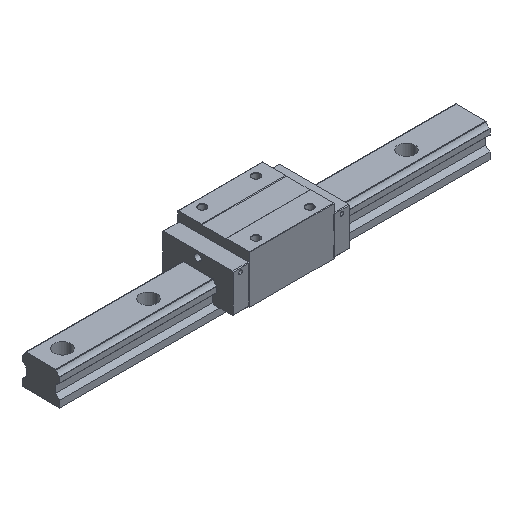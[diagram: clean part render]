
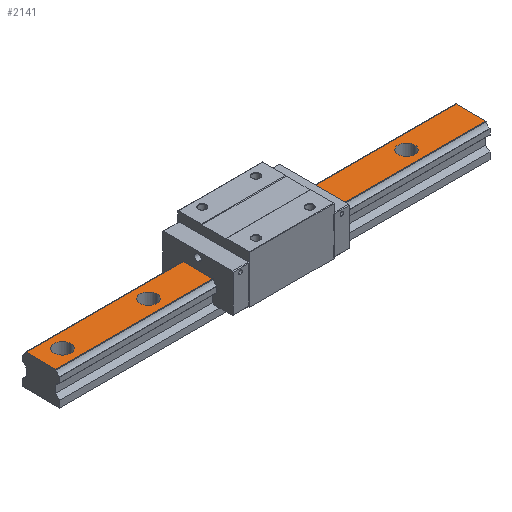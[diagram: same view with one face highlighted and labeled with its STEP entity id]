
A CAD part, isometric view. The second image highlights one B-rep face of the part: STEP entity #2141.
In plain terms, the highlighted planar face has unit normal (0, 0, 1).
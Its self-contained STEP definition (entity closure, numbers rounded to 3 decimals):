
#13 = CIRCLE ( 'NONE', #3112, 11.5 ) ;
#24 = ORIENTED_EDGE ( 'NONE', *, *, #5440, .F. ) ;
#25 = AXIS2_PLACEMENT_3D ( 'NONE', #1211, #313, #4169 ) ;
#39 = VERTEX_POINT ( 'NONE', #4799 ) ;
#69 = DIRECTION ( 'NONE',  ( -1., 0., 0. ) ) ;
#188 = AXIS2_PLACEMENT_3D ( 'NONE', #3413, #2598, #939 ) ;
#198 = VECTOR ( 'NONE', #69, 1000. ) ;
#234 = AXIS2_PLACEMENT_3D ( 'NONE', #2798, #4022, #3492 ) ;
#313 = DIRECTION ( 'NONE',  ( 0., 0., 1. ) ) ;
#327 = CARTESIAN_POINT ( 'NONE',  ( 198.5, 0., 44. ) ) ;
#356 = DIRECTION ( 'NONE',  ( 0., 0., 1. ) ) ;
#399 = CARTESIAN_POINT ( 'NONE',  ( 221.5, 0., 44. ) ) ;
#547 = AXIS2_PLACEMENT_3D ( 'NONE', #4229, #1384, #5115 ) ;
#550 = VERTEX_POINT ( 'NONE', #399 ) ;
#574 = VERTEX_POINT ( 'NONE', #3785 ) ;
#658 = CARTESIAN_POINT ( 'NONE',  ( -30., 0., 44. ) ) ;
#683 = LINE ( 'NONE', #4810, #1382 ) ;
#688 = EDGE_CURVE ( 'NONE', #4006, #4118, #4368, .T. ) ;
#698 = VERTEX_POINT ( 'NONE', #2671 ) ;
#699 = DIRECTION ( 'NONE',  ( 1., 0., 0. ) ) ;
#782 = DIRECTION ( 'NONE',  ( 0., 0., 1. ) ) ;
#828 = AXIS2_PLACEMENT_3D ( 'NONE', #4553, #782, #699 ) ;
#855 = VERTEX_POINT ( 'NONE', #4597 ) ;
#880 = LINE ( 'NONE', #5090, #198 ) ;
#890 = EDGE_LOOP ( 'NONE', ( #1250, #4806 ) ) ;
#927 = DIRECTION ( 'NONE',  ( 0., -1., 0. ) ) ;
#939 = DIRECTION ( 'NONE',  ( 1., 0., 0. ) ) ;
#1020 = EDGE_LOOP ( 'NONE', ( #5135, #2503 ) ) ;
#1074 = ORIENTED_EDGE ( 'NONE', *, *, #4012, .T. ) ;
#1090 = CIRCLE ( 'NONE', #25, 11.5 ) ;
#1092 = EDGE_CURVE ( 'NONE', #4118, #4006, #2331, .T. ) ;
#1166 = DIRECTION ( 'NONE',  ( 1., 0., 0. ) ) ;
#1172 = CARTESIAN_POINT ( 'NONE',  ( 90., 0., 44. ) ) ;
#1211 = CARTESIAN_POINT ( 'NONE',  ( -270., 0., 44. ) ) ;
#1250 = ORIENTED_EDGE ( 'NONE', *, *, #1909, .F. ) ;
#1269 = LINE ( 'NONE', #1650, #3486 ) ;
#1306 = EDGE_CURVE ( 'NONE', #1336, #574, #2559, .T. ) ;
#1336 = VERTEX_POINT ( 'NONE', #3837 ) ;
#1381 = ORIENTED_EDGE ( 'NONE', *, *, #4519, .F. ) ;
#1382 = VECTOR ( 'NONE', #1466, 1000. ) ;
#1384 = DIRECTION ( 'NONE',  ( 0., 0., 1. ) ) ;
#1402 = CARTESIAN_POINT ( 'NONE',  ( 300., -20.894, 44. ) ) ;
#1437 = CARTESIAN_POINT ( 'NONE',  ( -150., 0., 44. ) ) ;
#1466 = DIRECTION ( 'NONE',  ( 0., -1., 0. ) ) ;
#1513 = VERTEX_POINT ( 'NONE', #327 ) ;
#1553 = EDGE_CURVE ( 'NONE', #698, #3731, #4330, .T. ) ;
#1650 = CARTESIAN_POINT ( 'NONE',  ( 300., -20.894, 44. ) ) ;
#1675 = DIRECTION ( 'NONE',  ( -1., 0., 0. ) ) ;
#1909 = EDGE_CURVE ( 'NONE', #2479, #5439, #1090, .T. ) ;
#2070 = CARTESIAN_POINT ( 'NONE',  ( -161.5, 0., 44. ) ) ;
#2119 = ORIENTED_EDGE ( 'NONE', *, *, #4434, .F. ) ;
#2141 = ADVANCED_FACE ( 'NONE', ( #3434, #5110, #3054, #4664, #2142, #4772 ), #4724, .F. ) ;
#2142 = FACE_BOUND ( 'NONE', #5087, .T. ) ;
#2158 = VECTOR ( 'NONE', #927, 1000. ) ;
#2245 = AXIS2_PLACEMENT_3D ( 'NONE', #658, #2292, #3602 ) ;
#2286 = EDGE_LOOP ( 'NONE', ( #1074, #4700, #4346, #4707 ) ) ;
#2292 = DIRECTION ( 'NONE',  ( 0., 0., 1. ) ) ;
#2319 = EDGE_CURVE ( 'NONE', #39, #3662, #4426, .T. ) ;
#2331 = CIRCLE ( 'NONE', #2245, 11.5 ) ;
#2407 = DIRECTION ( 'NONE',  ( 0., 0., 1. ) ) ;
#2479 = VERTEX_POINT ( 'NONE', #4247 ) ;
#2503 = ORIENTED_EDGE ( 'NONE', *, *, #688, .F. ) ;
#2559 = LINE ( 'NONE', #1402, #2158 ) ;
#2564 = DIRECTION ( 'NONE',  ( 0., 0., -1. ) ) ;
#2596 = ORIENTED_EDGE ( 'NONE', *, *, #1553, .F. ) ;
#2598 = DIRECTION ( 'NONE',  ( 0., 0., 1. ) ) ;
#2671 = CARTESIAN_POINT ( 'NONE',  ( -138.5, 0., 44. ) ) ;
#2798 = CARTESIAN_POINT ( 'NONE',  ( -30., 0., 44. ) ) ;
#2822 = CARTESIAN_POINT ( 'NONE',  ( -150., 0., 44. ) ) ;
#2858 = DIRECTION ( 'NONE',  ( 0., 0., 1. ) ) ;
#2882 = DIRECTION ( 'NONE',  ( 1., 0., 0. ) ) ;
#3041 = DIRECTION ( 'NONE',  ( 0., 0., 1. ) ) ;
#3047 = CIRCLE ( 'NONE', #5151, 11.5 ) ;
#3054 = FACE_BOUND ( 'NONE', #1020, .T. ) ;
#3112 = AXIS2_PLACEMENT_3D ( 'NONE', #4136, #356, #4571 ) ;
#3120 = DIRECTION ( 'NONE',  ( 1., 0., 0. ) ) ;
#3390 = EDGE_CURVE ( 'NONE', #5439, #2479, #13, .T. ) ;
#3413 = CARTESIAN_POINT ( 'NONE',  ( 210., 0., 44. ) ) ;
#3434 = FACE_BOUND ( 'NONE', #890, .T. ) ;
#3470 = CIRCLE ( 'NONE', #828, 11.5 ) ;
#3486 = VECTOR ( 'NONE', #1675, 1000. ) ;
#3492 = DIRECTION ( 'NONE',  ( 1., 0., 0. ) ) ;
#3602 = DIRECTION ( 'NONE',  ( 1., 0., 0. ) ) ;
#3605 = CARTESIAN_POINT ( 'NONE',  ( 78.5, 0., 44. ) ) ;
#3662 = VERTEX_POINT ( 'NONE', #3605 ) ;
#3686 = CARTESIAN_POINT ( 'NONE',  ( -300., -20.894, 44. ) ) ;
#3687 = CARTESIAN_POINT ( 'NONE',  ( -18.5, 0., 44. ) ) ;
#3731 = VERTEX_POINT ( 'NONE', #2070 ) ;
#3785 = CARTESIAN_POINT ( 'NONE',  ( 300., -20.894, 44. ) ) ;
#3810 = AXIS2_PLACEMENT_3D ( 'NONE', #3898, #2564, #4306 ) ;
#3837 = CARTESIAN_POINT ( 'NONE',  ( 300., 20.894, 44. ) ) ;
#3898 = CARTESIAN_POINT ( 'NONE',  ( 300., -20.894, 44. ) ) ;
#3923 = EDGE_CURVE ( 'NONE', #3731, #698, #3047, .T. ) ;
#3985 = EDGE_LOOP ( 'NONE', ( #2596, #4650 ) ) ;
#4006 = VERTEX_POINT ( 'NONE', #4479 ) ;
#4012 = EDGE_CURVE ( 'NONE', #855, #5044, #683, .T. ) ;
#4022 = DIRECTION ( 'NONE',  ( 0., 0., 1. ) ) ;
#4118 = VERTEX_POINT ( 'NONE', #3687 ) ;
#4123 = EDGE_CURVE ( 'NONE', #574, #5044, #1269, .T. ) ;
#4136 = CARTESIAN_POINT ( 'NONE',  ( -270., 0., 44. ) ) ;
#4169 = DIRECTION ( 'NONE',  ( 1., 0., 0. ) ) ;
#4229 = CARTESIAN_POINT ( 'NONE',  ( 210., 0., 44. ) ) ;
#4234 = EDGE_LOOP ( 'NONE', ( #4455, #24 ) ) ;
#4247 = CARTESIAN_POINT ( 'NONE',  ( -258.5, 0., 44. ) ) ;
#4306 = DIRECTION ( 'NONE',  ( 0., -1., 0. ) ) ;
#4330 = CIRCLE ( 'NONE', #4948, 11.5 ) ;
#4346 = ORIENTED_EDGE ( 'NONE', *, *, #1306, .F. ) ;
#4347 = AXIS2_PLACEMENT_3D ( 'NONE', #1172, #2858, #2882 ) ;
#4368 = CIRCLE ( 'NONE', #234, 11.5 ) ;
#4407 = CIRCLE ( 'NONE', #547, 11.5 ) ;
#4426 = CIRCLE ( 'NONE', #4347, 11.5 ) ;
#4434 = EDGE_CURVE ( 'NONE', #1513, #550, #4407, .T. ) ;
#4455 = ORIENTED_EDGE ( 'NONE', *, *, #2319, .F. ) ;
#4471 = CARTESIAN_POINT ( 'NONE',  ( -281.5, 0., 44. ) ) ;
#4479 = CARTESIAN_POINT ( 'NONE',  ( -41.5, 0., 44. ) ) ;
#4519 = EDGE_CURVE ( 'NONE', #550, #1513, #5030, .T. ) ;
#4553 = CARTESIAN_POINT ( 'NONE',  ( 90., 0., 44. ) ) ;
#4571 = DIRECTION ( 'NONE',  ( 1., 0., 0. ) ) ;
#4597 = CARTESIAN_POINT ( 'NONE',  ( -300., 20.894, 44. ) ) ;
#4650 = ORIENTED_EDGE ( 'NONE', *, *, #3923, .F. ) ;
#4664 = FACE_BOUND ( 'NONE', #4234, .T. ) ;
#4700 = ORIENTED_EDGE ( 'NONE', *, *, #4123, .F. ) ;
#4707 = ORIENTED_EDGE ( 'NONE', *, *, #5253, .T. ) ;
#4724 = PLANE ( 'NONE',  #3810 ) ;
#4772 = FACE_OUTER_BOUND ( 'NONE', #2286, .T. ) ;
#4799 = CARTESIAN_POINT ( 'NONE',  ( 101.5, 0., 44. ) ) ;
#4806 = ORIENTED_EDGE ( 'NONE', *, *, #3390, .F. ) ;
#4810 = CARTESIAN_POINT ( 'NONE',  ( -300., -20.894, 44. ) ) ;
#4948 = AXIS2_PLACEMENT_3D ( 'NONE', #2822, #2407, #1166 ) ;
#5030 = CIRCLE ( 'NONE', #188, 11.5 ) ;
#5044 = VERTEX_POINT ( 'NONE', #3686 ) ;
#5087 = EDGE_LOOP ( 'NONE', ( #1381, #2119 ) ) ;
#5090 = CARTESIAN_POINT ( 'NONE',  ( 300., 20.894, 44. ) ) ;
#5110 = FACE_BOUND ( 'NONE', #3985, .T. ) ;
#5115 = DIRECTION ( 'NONE',  ( 1., 0., 0. ) ) ;
#5135 = ORIENTED_EDGE ( 'NONE', *, *, #1092, .F. ) ;
#5151 = AXIS2_PLACEMENT_3D ( 'NONE', #1437, #3041, #3120 ) ;
#5253 = EDGE_CURVE ( 'NONE', #1336, #855, #880, .T. ) ;
#5439 = VERTEX_POINT ( 'NONE', #4471 ) ;
#5440 = EDGE_CURVE ( 'NONE', #3662, #39, #3470, .T. ) ;
